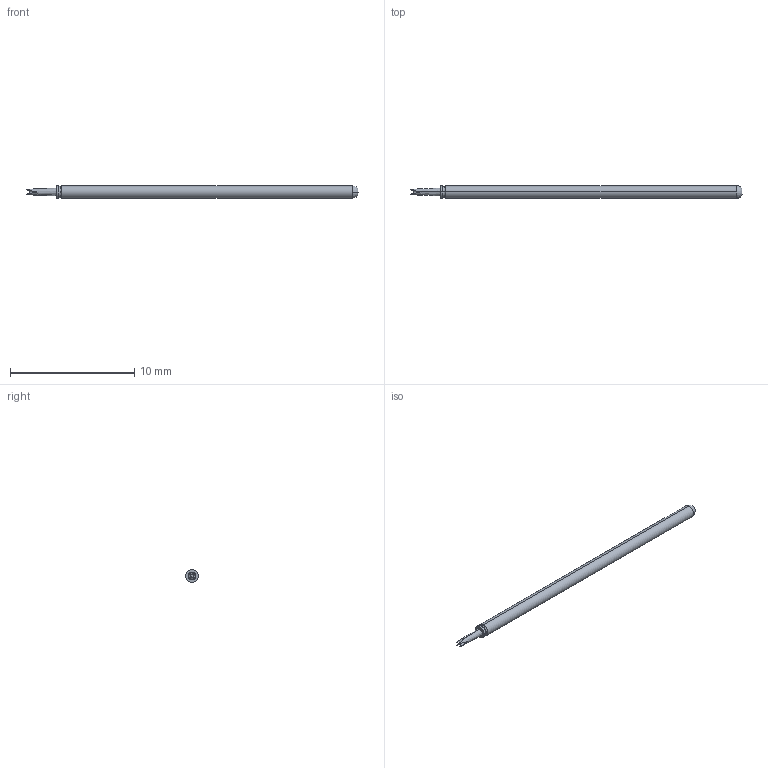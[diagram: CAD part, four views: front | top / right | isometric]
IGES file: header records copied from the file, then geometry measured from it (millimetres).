
Start section: SolidWorks IGES file using analytic representation for surfaces
Global section: file name: Z:\probe solid model mockups\Solidworks models\Parts\LFRE-1L18 FULL.IGS; native system: SolidWorks 2016; preprocessor: SolidWorks 2016; author: mlee; date: 180927.163619; units: inch
Bounding box: 26.67 x 1.02 x 1.02 mm (x, y, z)
Surface area: 82.5 mm2 (no closed solid volume)
Topology: 0 solids, 0 shells, 22 faces, 154 edges, 154 vertices
Faces by surface type: bspline 14, revolution 8
